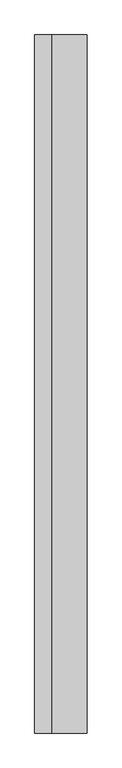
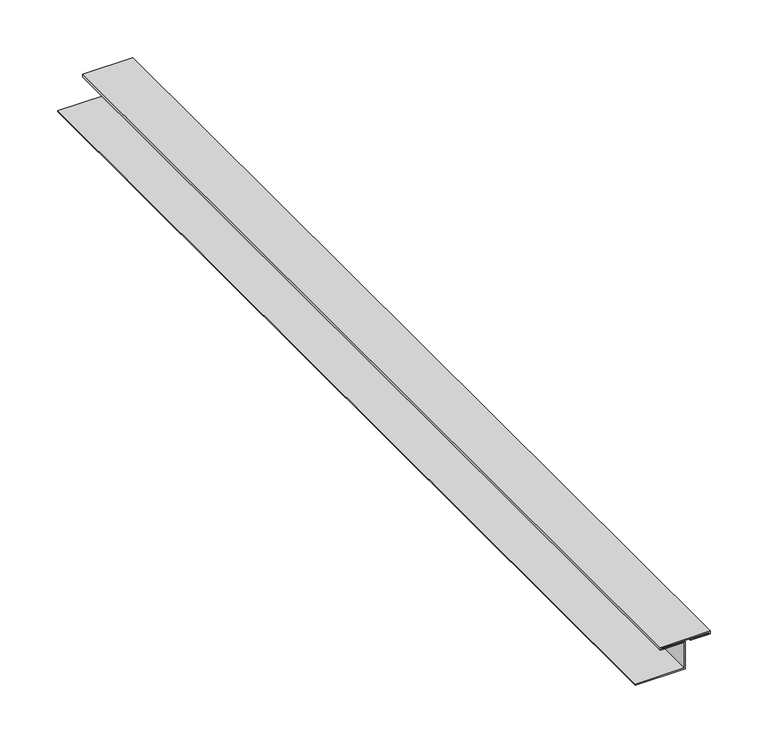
"""IFC4 building model written with IfcOpenShell, lengths in millimetres: proxy geometry, Alubel Alu-Skin Joint Type1 : Alubel Alu-Skin Joint Type1."""

from ifc_helpers import new_model, si_unit, frame, origin, place, context, project, spatial, polyline, outline, extrude, source, transform, mapped, element, save


def generic_models_08e67620(model_context):
    return source(origin(), model_context, "Body", "SweptSolid", [
        extrude(outline(polyline([(28.0, 25.0), (31.0, 25.0), (31.0, -25.0), (28.0, -25.0), (28.0, -1.0), (1.0, -1.0), (1.0, -50.0), (0.0, -50.0), (0.0, 0.0), (29.0, 0.0), (29.0, -24.0), (30.0, -24.0), (30.0, 24.0), (29.0, 24.0), (29.0, 5.0), (28.0, 5.0), (28.0, 25.0)])), frame((0.0, 0.0, 0.0), z_axis=(0.0, 1.0, 0.0), x_axis=(0.0, 0.0, 1.0)), (0.0, 0.0, 1.0), 1000.0),
    ])


if __name__ == "__main__":
    model = new_model("IFC4")
    model_context = context("Model", 3, world=origin())
    ifc_project = project(units=[si_unit("LENGTHUNIT", "METRE", prefix="MILLI")], contexts=[model_context])
    site = spatial("IfcSite", under=ifc_project)
    building = spatial("IfcBuilding", under=site)
    placement = place(None, origin())
    generic_models_shape = generic_models_08e67620(model_context)
    element("IfcBuildingElementProxy", 1, Name="Alubel Alu-Skin Joint Type1 : Alubel Alu-Skin Joint Type1", ObjectType="Alubel Alu-Skin Joint Type1 : Alubel Alu-Skin Joint Type1", at=placement, inside=building, context=model_context, shape_type="MappedRepresentation", body=[
        mapped(generic_models_shape, transform((0.0, 0.0, 0.0), x_axis=(1.0, 0.0, 0.0), y_axis=(0.0, 1.0, 0.0), z_axis=(0.0, 0.0, 1.0))),
    ])
    save(model, "model.ifc")
